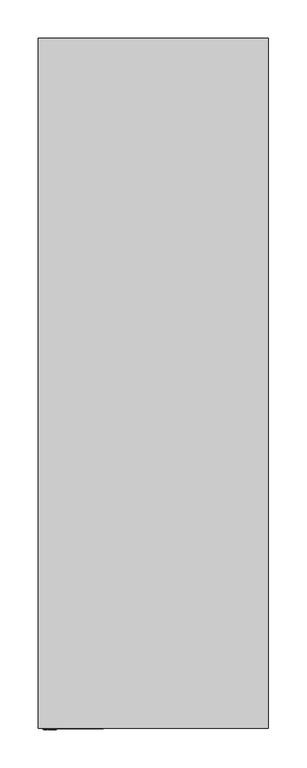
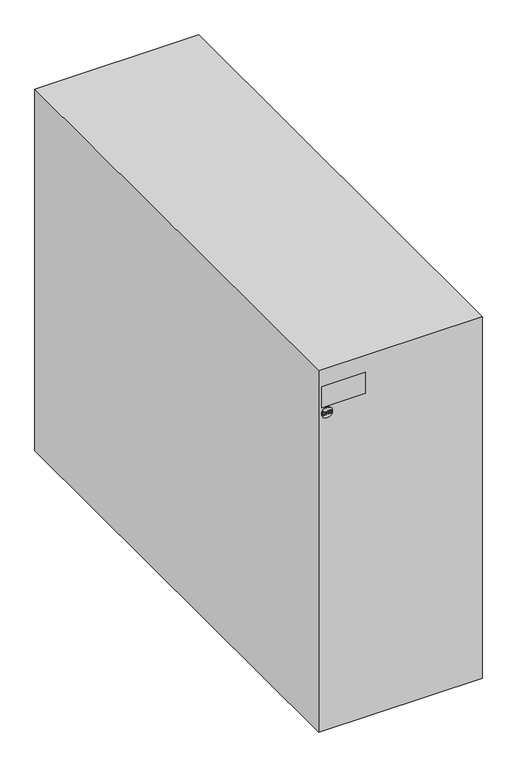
"""IFC4 building model written with IfcOpenShell, lengths in millimetres: proxy geometry, НВО_КНС_ОнлайнИБПСерияSoloMMB_DKC : 14 кВА 140 х 9 Ач."""

from ifc_helpers import new_model, si_unit, point, frame, frame_2d, origin, place, context, project, spatial, polyline, circle_curve, trimmed, segment, composite_curve, outline, extrude, source, transform, mapped, element, save


def electrical_equipment_1e044531(model_context):
    return source(origin(), model_context, "Body", "SweptSolid", [
        extrude(outline(polyline([(682.0, -143.1463789), (682.0, -140.967046), (682.103007, -139.9980448), (682.9520786, -138.7273804), (683.829845, -138.3153525), (685.0460629, -138.154956), (686.4793312, -138.391872), (687.5094008, -139.1055631), (687.9405585, -139.9914229), (688.0273786, -141.0671099), (688.0273786, -143.1463789), (682.0, -143.1463789)]), holes=[polyline([(682.7534223, -142.3929566), (687.2739563, -142.3929566), (687.2739563, -141.0803536), (687.153291, -140.0120243), (686.4852173, -139.2299072), (685.0578351, -138.9083783), (683.9181367, -139.0724537), (682.8623154, -140.0900153), (682.7534223, -141.0597522), (682.7534223, -142.3929566)])]), frame((0.0, -2.0, 0.0), z_axis=(0.0, 1.0, 0.0), x_axis=(0.0, 0.0, 1.0)), (0.0, 0.0, 1.0), 6.0),
        extrude(outline(polyline([(682.0, -136.7422891), (684.0719114, -136.365578), (685.0401768, -135.3502237), (682.0, -133.0487539), (682.0, -132.1275774), (685.5493255, -134.816059), (688.0273786, -132.2217552), (688.0273786, -133.2753692), (685.076965, -136.365578), (688.0273786, -137.1190003), (682.0, -136.7422891)])), frame((0.0, -2.0, 0.0), z_axis=(0.0, 1.0, 0.0), x_axis=(0.0, 0.0, 1.0)), (0.0, 0.0, 1.0), 6.0),
        extrude(outline(polyline([(684.1425447, -127.3245101), (683.0330126, -127.963889), (682.6592445, -129.1168311), (682.9336845, -130.1564657), (683.7628905, -130.8642706), (685.0607782, -131.0916217), (686.180611, -130.8995873), (687.0458694, -130.2337209), (687.3681341, -129.055027), (687.0775073, -128.0367296), (686.3307068, -126.6652655), (687.652139, -127.5165445), (688.1215564, -129.0255964), (687.7588248, -130.4735799), (686.6971173, -131.4881985), (685.0593067, -131.845044), (683.4479835, -131.5294013), (682.3016632, -130.6096963), (681.9058222, -129.0417832), (682.4289504, -127.4643052), (684.1425447, -127.3245101)])), frame((0.0, -2.0, 0.0), z_axis=(0.0, 1.0, 0.0), x_axis=(0.0, 0.0, 1.0)), (0.0, 0.0, 1.0), 6.0),
        extrude(outline(composite_curve([segment(trimmed(circle_curve(frame_2d((685.0, -135.0)), 10.0), [point((685.0, -145.0))], [point((685.0, -125.0))], False, "CARTESIAN"), True, "CONTINUOUS"), segment(trimmed(circle_curve(frame_2d((685.0, -135.0)), 10.0), [point((685.0, -125.0))], [point((685.0, -145.0))], False, "CARTESIAN"), True, "CONTINUOUS")], self_intersect=False)), frame((0.0, -1.0, 0.0), z_axis=(0.0, 1.0, 0.0), x_axis=(0.0, 0.0, 1.0)), (0.0, 0.0, 1.0), 10.0),
        extrude(outline(polyline([(150.0, 0.0), (-150.0, 0.0), (-150.0, 900.0), (150.0, 900.0), (150.0, 0.0)])), frame((0.0, 0.0, 70.0), z_axis=(0.0, 0.0, 1.0), x_axis=(1.0, 0.0, 0.0)), (0.0, 0.0, 1.0), 700.0),
        extrude(outline(polyline([(-65.0, -1.0), (-145.0, -1.0), (-145.0, 0.0), (-65.0, 0.0), (-65.0, -1.0)])), frame((0.0, 0.0, 698.0), z_axis=(0.0, 0.0, 1.0), x_axis=(1.0, 0.0, 0.0)), (0.0, 0.0, 1.0), 40.0),
    ])


if __name__ == "__main__":
    model = new_model("IFC4")
    model_context = context("Model", 3, world=origin())
    ifc_project = project(units=[si_unit("LENGTHUNIT", "METRE", prefix="MILLI")], contexts=[model_context])
    site = spatial("IfcSite", under=ifc_project)
    building = spatial("IfcBuilding", under=site)
    placement = place(None, origin())
    electrical_equipment_shape = electrical_equipment_1e044531(model_context)
    element("IfcBuildingElementProxy", 1, Name="НВО_КНС_ОнлайнИБПСерияSoloMMB_DKC : 14 кВА 140 х 9 Ач", ObjectType="НВО_КНС_ОнлайнИБПСерияSoloMMB_DKC : 14 кВА 140 х 9 Ач", at=placement, inside=building, context=model_context, shape_type="MappedRepresentation", body=[
        mapped(electrical_equipment_shape, transform((0.0, 0.0, 0.0), x_axis=(1.0, 0.0, 0.0), y_axis=(0.0, 1.0, 0.0), z_axis=(0.0, 0.0, 1.0))),
    ])
    save(model, "model.ifc")
